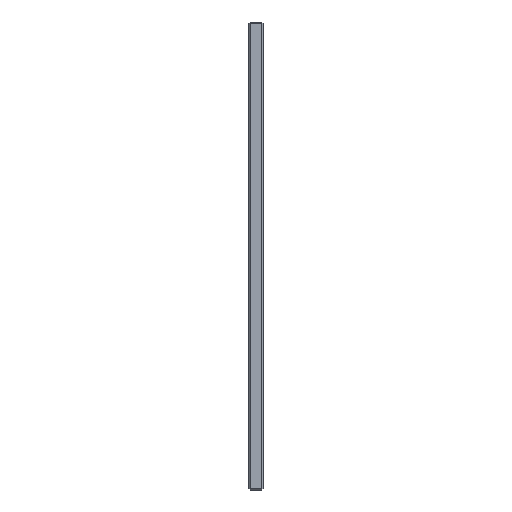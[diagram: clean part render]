
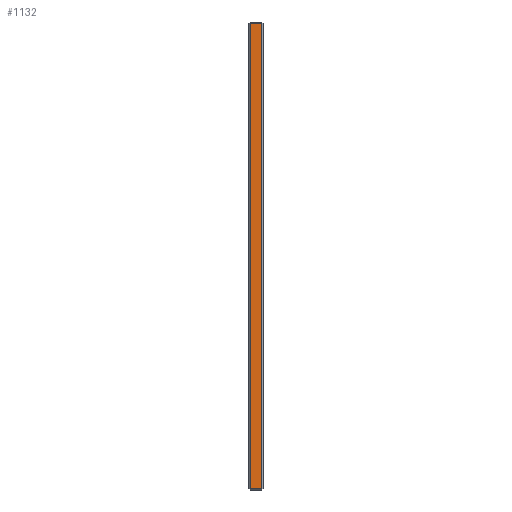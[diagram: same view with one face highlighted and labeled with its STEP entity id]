
A CAD part, left-side view. The second image highlights one B-rep face of the part: STEP entity #1132.
In plain terms, the highlighted planar face has unit normal (-1, 0, 0).
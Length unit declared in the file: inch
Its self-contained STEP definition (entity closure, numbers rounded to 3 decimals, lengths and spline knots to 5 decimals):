
#148 = VECTOR ( 'NONE', #1055, 39.37008 ) ;
#157 = CARTESIAN_POINT ( 'NONE',  ( -14.6875, 0.05, 8.1375 ) ) ;
#294 = CARTESIAN_POINT ( 'NONE',  ( -14.6875, 0.5, 8.1375 ) ) ;
#295 = EDGE_CURVE ( 'NONE', #1754, #1553, #306, .T. ) ;
#306 = LINE ( 'NONE', #294, #1595 ) ;
#324 = AXIS2_PLACEMENT_3D ( 'NONE', #1731, #473, #1405 ) ;
#378 = VERTEX_POINT ( 'NONE', #2047 ) ;
#473 = DIRECTION ( 'NONE',  ( 1., 0., 0. ) ) ;
#608 = ORIENTED_EDGE ( 'NONE', *, *, #1976, .T. ) ;
#640 = DIRECTION ( 'NONE',  ( 0., -1., 0. ) ) ;
#727 = CARTESIAN_POINT ( 'NONE',  ( -14.6875, 0.45, 8.1375 ) ) ;
#742 = DIRECTION ( 'NONE',  ( 0., 0., -1. ) ) ;
#764 = VECTOR ( 'NONE', #640, 39.37008 ) ;
#993 = EDGE_CURVE ( 'NONE', #1553, #2054, #1364, .T. ) ;
#1055 = DIRECTION ( 'NONE',  ( 0., 0., 1. ) ) ;
#1112 = PLANE ( 'NONE',  #324 ) ;
#1132 = ADVANCED_FACE ( 'Placement Plane', ( #1408 ), #1112, .F. ) ;
#1135 = LINE ( 'NONE', #1535, #148 ) ;
#1167 = ORIENTED_EDGE ( 'NONE', *, *, #1223, .T. ) ;
#1204 = EDGE_LOOP ( 'NONE', ( #2027, #1167, #608, #1303 ) ) ;
#1212 = CARTESIAN_POINT ( 'NONE',  ( -14.6875, 0.45, -8.1375 ) ) ;
#1223 = EDGE_CURVE ( 'NONE', #2054, #378, #2019, .T. ) ;
#1303 = ORIENTED_EDGE ( 'NONE', *, *, #295, .T. ) ;
#1364 = LINE ( 'NONE', #1563, #1566 ) ;
#1405 = DIRECTION ( 'NONE',  ( 0., 0., -1. ) ) ;
#1408 = FACE_OUTER_BOUND ( 'NONE', #1204, .T. ) ;
#1535 = CARTESIAN_POINT ( 'NONE',  ( -14.6875, 0.05, -8.1875 ) ) ;
#1553 = VERTEX_POINT ( 'NONE', #727 ) ;
#1563 = CARTESIAN_POINT ( 'NONE',  ( -14.6875, 0.45, -8.1875 ) ) ;
#1566 = VECTOR ( 'NONE', #742, 39.37008 ) ;
#1595 = VECTOR ( 'NONE', #1866, 39.37008 ) ;
#1731 = CARTESIAN_POINT ( 'NONE',  ( -14.6875, 0.5, -8.1875 ) ) ;
#1754 = VERTEX_POINT ( 'NONE', #157 ) ;
#1866 = DIRECTION ( 'NONE',  ( 0., 1., 0. ) ) ;
#1976 = EDGE_CURVE ( 'NONE', #378, #1754, #1135, .T. ) ;
#2019 = LINE ( 'NONE', #2023, #764 ) ;
#2023 = CARTESIAN_POINT ( 'NONE',  ( -14.6875, 0.5, -8.1375 ) ) ;
#2027 = ORIENTED_EDGE ( 'NONE', *, *, #993, .T. ) ;
#2047 = CARTESIAN_POINT ( 'NONE',  ( -14.6875, 0.05, -8.1375 ) ) ;
#2054 = VERTEX_POINT ( 'NONE', #1212 ) ;
